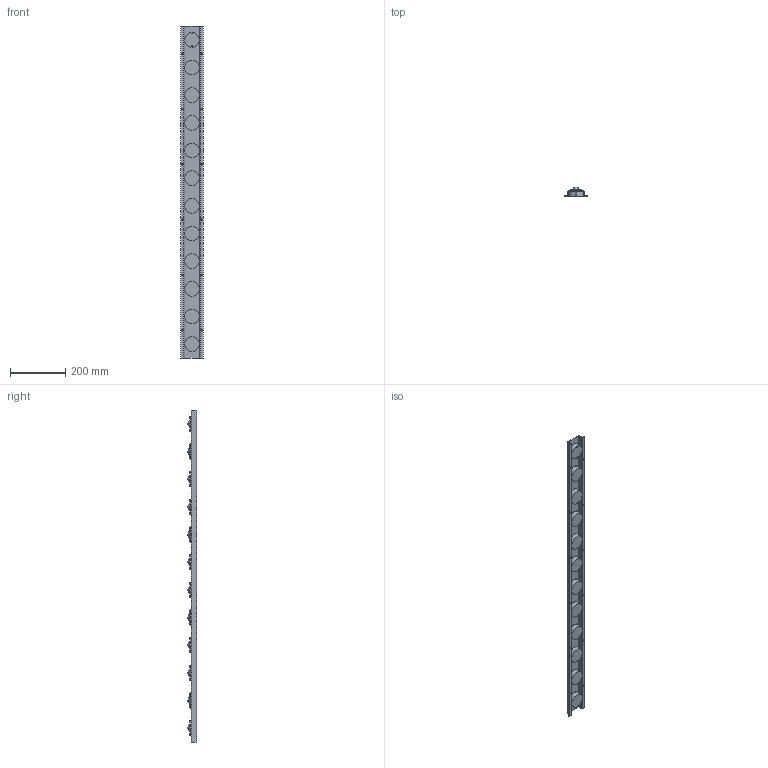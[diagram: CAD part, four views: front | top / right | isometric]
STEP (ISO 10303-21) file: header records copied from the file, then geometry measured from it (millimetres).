
FILE_DESCRIPTION (( 'STEP AP203' ), '1' );
FILE_NAME ('PVUH-12.STEP', '2015-12-24T00:50:32', ( '' ), ( '' ), 'SwSTEP 2.0', 'SolidWorks 2013', '' );
FILE_SCHEMA (( 'CONFIG_CONTROL_DESIGN' ));
Length unit declared in the file: millimetre
Products named in the file (1): PVUH-12
Bounding box: 80 x 33.6 x 1200 mm (x, y, z)
Volume: 871419.7 mm3; surface area: 353073.6 mm2
Topology: 1 solids, 1 shells, 958 faces, 2460 edges, 1576 vertices
Faces by surface type: plane 482, cylinder 224, torus 156, cone 48, sphere 48
Entity records: 30617 total; most frequent: CARTESIAN_POINT 7047, DIRECTION 4994, ORIENTED_EDGE 4920, EDGE_CURVE 2460, AXIS2_PLACEMENT_3D 1947, VERTEX_POINT 1576, LINE 1100, VECTOR 1100
